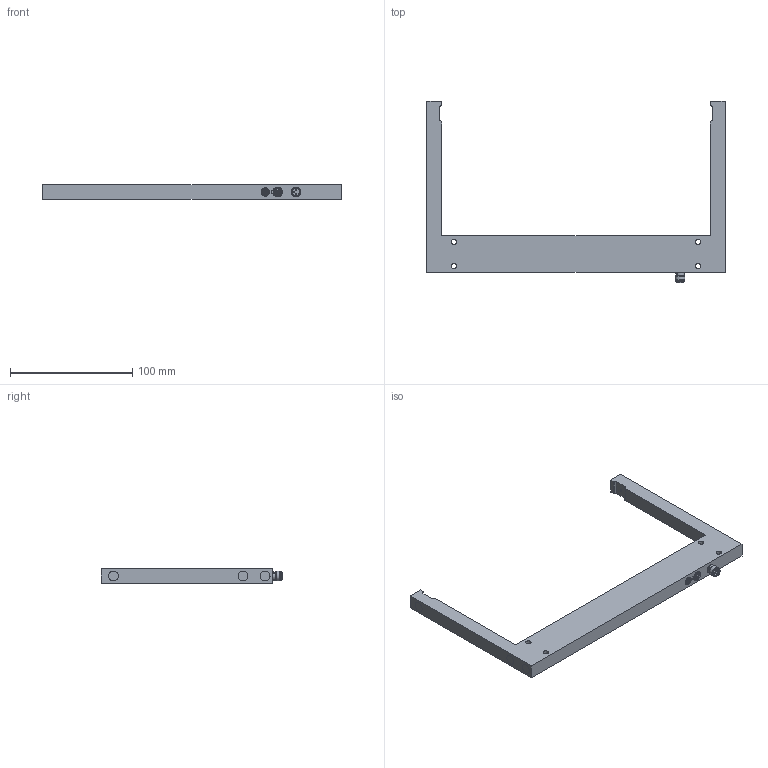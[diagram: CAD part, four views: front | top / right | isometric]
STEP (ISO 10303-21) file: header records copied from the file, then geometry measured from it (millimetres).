
FILE_DESCRIPTION(/* description */ (''),/* implementation_level */ '2;1');
FILE_NAME(/* name */ '3DCAD_GS04B_x_1_220_M8_3.stp',/* time_stamp */ '2021-04-26T11:18:02+02:00',/* author */ ('CC2'),/* organization */ ('Leuze electronic'),/* preprocessor_version */ 'ST-DEVELOPER v16',/* originating_system */ 'SIEMENS PLM Software NX 11.0',/* authorisation */ '');
FILE_SCHEMA (('AUTOMOTIVE_DESIGN { 1 0 10303 214 3 1 1 1 }'));
Length unit declared in the file: millimetre
Products named in the file (1): 19-103290_00_1-3DCAD_GS04B_x_1_220_M8_3
Bounding box: 244 x 148.5 x 12 mm (x, y, z)
Volume: 118169.5 mm3; surface area: 33696.7 mm2
Topology: 1 solids, 7 shells, 193 faces, 394 edges, 256 vertices
Faces by surface type: plane 92, cylinder 91, cone 5, sphere 3, torus 2
Full cylindrical faces by diameter (mm): 1 x3, 2 x4, 4.3 x4, 5 x6, 5.7 x1, 5.8 x2, 6.4 x1, 6.6 x2, 6.7 x4, 6.9 x1, 7 x4, 7.2 x1, 8 x5, 8.08 x2, 8.1 x6
Entity records: 5631 total; most frequent: CARTESIAN_POINT 917, DIRECTION 856, ORIENTED_EDGE 636, AXIS2_PLACEMENT_3D 368, EDGE_CURVE 318, EDGE_LOOP 301, VERTEX_POINT 237, FACE_BOUND 195
